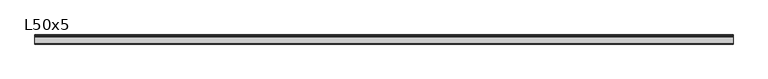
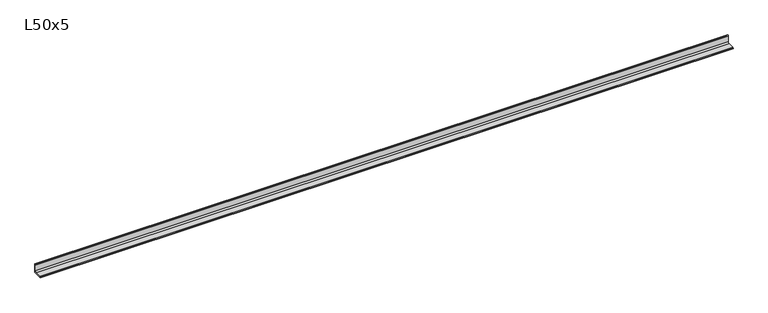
"""IFC4 building model written with IfcOpenShell, lengths in millimetres: beam geometry, Cornière à ailes égales : L50x5."""

from ifc_helpers import new_model, si_unit, point, frame, frame_2d, origin, place, context, project, spatial, polyline, circle_curve, trimmed, segment, composite_curve, outline, extrude, source, transform, mapped, element, save


def l50x5_4d45e271(model_context):
    return source(origin(), model_context, "Body", "SweptSolid", [
        extrude(outline(composite_curve([segment(polyline([(14.0, -14.0), (-36.0, -14.0), (-36.0, -12.5)]), True, "CONTINUOUS"), segment(trimmed(circle_curve(frame_2d((-32.5, -12.5)), 3.5), [point((-36.0, -12.5))], [point((-32.5, -9.0))], False, "CARTESIAN"), True, "CONTINUOUS"), segment(polyline([(-32.5, -9.0), (2.0, -9.0)]), True, "CONTINUOUS"), segment(trimmed(circle_curve(frame_2d((2.0, -2.0)), 7.0), [point((2.0, -9.0))], [point((9.0, -2.0))], True, "CARTESIAN"), True, "CONTINUOUS"), segment(polyline([(9.0, -2.0), (9.0, 32.5)]), True, "CONTINUOUS"), segment(trimmed(circle_curve(frame_2d((12.5, 32.5)), 3.5), [point((9.0, 32.5))], [point((12.5, 36.0))], False, "CARTESIAN"), True, "CONTINUOUS"), segment(polyline([(12.5, 36.0), (14.0, 36.0), (14.0, -14.0)]), True, "CONTINUOUS")], self_intersect=False)), frame((-1907.3, 0.0, 0.0), z_axis=(1.0, 0.0, 0.0), x_axis=(0.0, 1.0, 0.0)), (0.0, 0.0, 1.0), 3818.6),
    ])


if __name__ == "__main__":
    model = new_model("IFC4")
    model_context = context("Model", 3, world=origin())
    ifc_project = project(units=[si_unit("LENGTHUNIT", "METRE", prefix="MILLI")], contexts=[model_context])
    site = spatial("IfcSite", under=ifc_project)
    building = spatial("IfcBuilding", under=site)
    placement = place(None, origin())
    l50x5_shape = l50x5_4d45e271(model_context)
    element("IfcBeam", 1, ObjectType="Cornière à ailes égales : L50x5", at=placement, inside=building, context=model_context, shape_type="MappedRepresentation", body=[
        mapped(l50x5_shape, transform((0.0, 0.0, 0.0), x_axis=(1.0, 0.0, 0.0), y_axis=(0.0, 1.0, 0.0), z_axis=(0.0, 0.0, 1.0))),
    ])
    save(model, "model.ifc")
